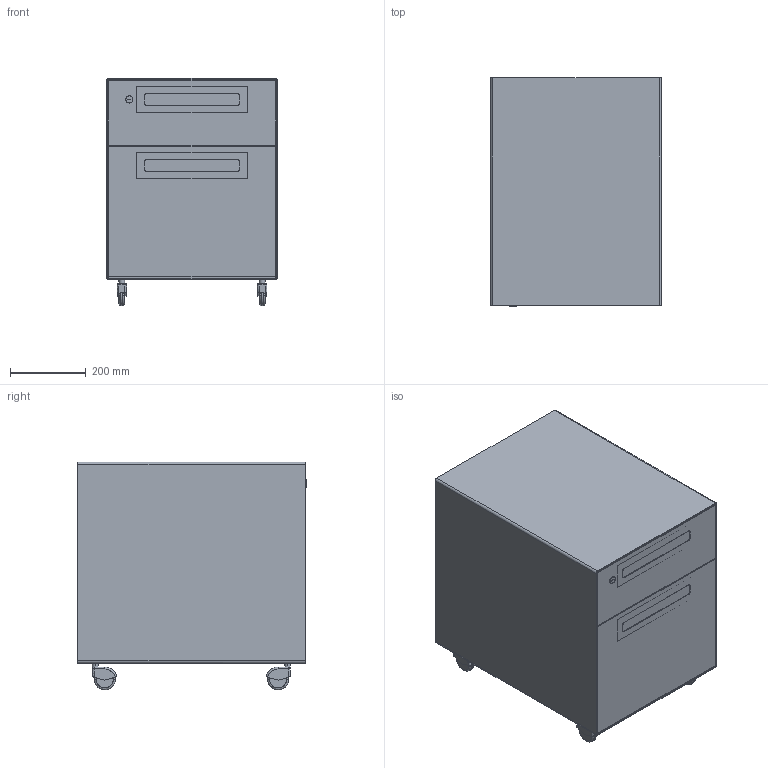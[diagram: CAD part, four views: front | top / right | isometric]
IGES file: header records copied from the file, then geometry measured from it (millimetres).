
Start section: Comment
Global section: file name: R40-2.igs; native system:  By UGS Corp.; preprocessor: XPlus GENERIC/IGES 3.0; author: Author; organization: Title; date: 20170209.122345; units: inch
Bounding box: 450 x 602 x 599.97 mm (x, y, z)
Surface area: 1763026.9 mm2 (no closed solid volume)
Topology: 0 solids, 0 shells, 201 faces, 980 edges, 964 vertices
Faces by surface type: bspline 201
